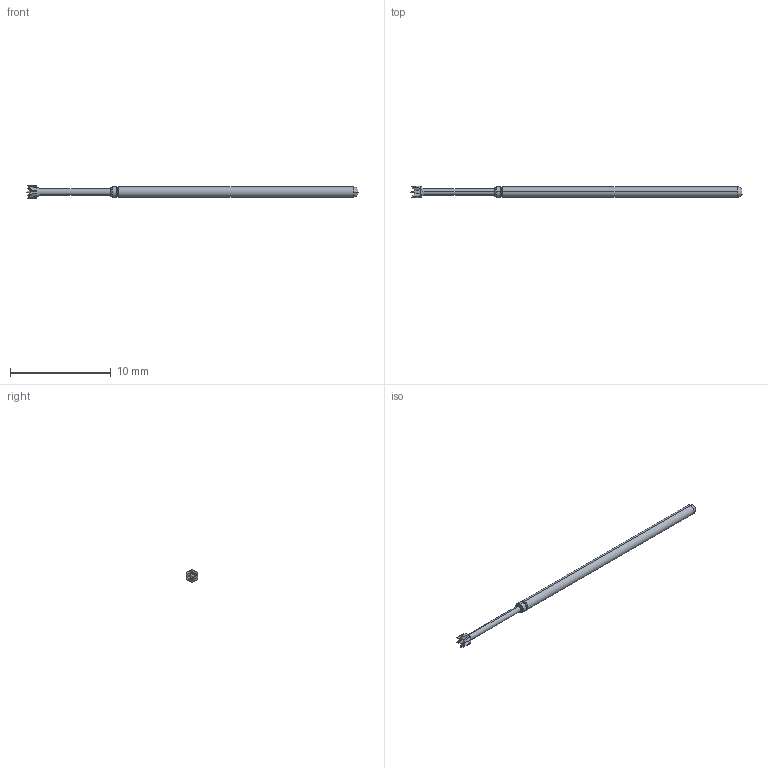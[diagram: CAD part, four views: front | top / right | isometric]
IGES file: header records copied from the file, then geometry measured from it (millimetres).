
Start section: SolidWorks IGES file using analytic representation for surfaces
Global section: file name: Z:\probe solid model mockups\Solidworks models\Parts\LFRE-1V.IGS; native system: SolidWorks 2016; preprocessor: SolidWorks 2016; author: mlee; date: 180927.164141; units: inch
Bounding box: 33.02 x 1.18 x 1.19 mm (x, y, z)
Surface area: 98.4 mm2 (no closed solid volume)
Topology: 0 solids, 0 shells, 43 faces, 274 edges, 272 vertices
Faces by surface type: revolution 25, bspline 18
